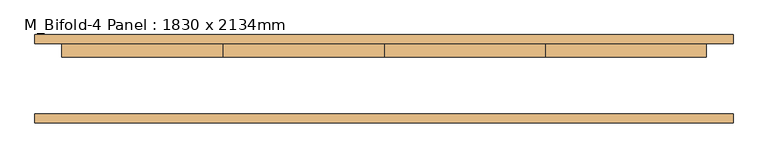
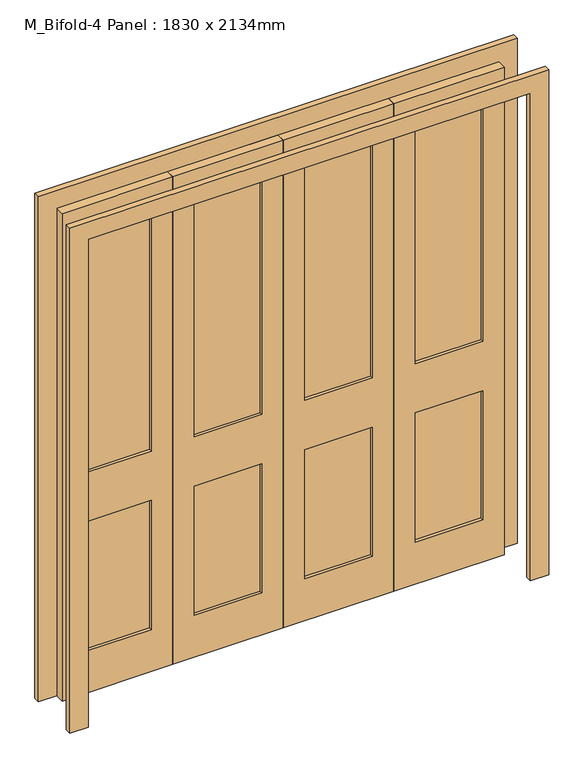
"""IFC4 building model written with IfcOpenShell, lengths in millimetres: door geometry, M_Bifold-4 Panel : 1830 x 2134mm."""

from ifc_helpers import new_model, si_unit, frame, origin, place, context, project, spatial, polyline, outline, extrude, source, transform, mapped, element, save


def m_bifold_4_panel_1830_x_2134mm_2044b99a(model_context):
    return source(origin(), model_context, "Body", "SweptSolid", [
        extrude(outline(polyline([(546.4, 87.3), (826.1, 87.3), (826.1, 74.6), (546.4, 74.6), (546.4, 87.3)])), frame((0.0, 0.0, 965.2), z_axis=(0.0, 0.0, 1.0), x_axis=(1.0, 0.0, 0.0)), (0.0, 0.0, 1.0), 1086.25),
        extrude(outline(polyline([(546.4, 87.3), (826.1, 87.3), (826.1, 74.6), (546.4, 74.6), (546.4, 87.3)])), frame((0.0, 0.0, 184.15), z_axis=(0.0, 0.0, 1.0), x_axis=(1.0, 0.0, 0.0)), (0.0, 0.0, 1.0), 565.15),
        extrude(outline(polyline([(88.9, 87.3), (368.6, 87.3), (368.6, 74.6), (88.9, 74.6), (88.9, 87.3)])), frame((0.0, 0.0, 965.2), z_axis=(0.0, 0.0, 1.0), x_axis=(1.0, 0.0, 0.0)), (0.0, 0.0, 1.0), 1086.25),
        extrude(outline(polyline([(88.9, 87.3), (368.6, 87.3), (368.6, 74.6), (88.9, 74.6), (88.9, 87.3)])), frame((0.0, 0.0, 184.15), z_axis=(0.0, 0.0, 1.0), x_axis=(1.0, 0.0, 0.0)), (0.0, 0.0, 1.0), 565.15),
        extrude(outline(polyline([(-368.6, 87.3), (-88.9, 87.3), (-88.9, 74.6), (-368.6, 74.6), (-368.6, 87.3)])), frame((0.0, 0.0, 184.15), z_axis=(0.0, 0.0, 1.0), x_axis=(1.0, 0.0, 0.0)), (0.0, 0.0, 1.0), 565.15),
        extrude(outline(polyline([(-368.6, 87.3), (-88.9, 87.3), (-88.9, 74.6), (-368.6, 74.6), (-368.6, 87.3)])), frame((0.0, 0.0, 965.2), z_axis=(0.0, 0.0, 1.0), x_axis=(1.0, 0.0, 0.0)), (0.0, 0.0, 1.0), 1086.25),
        extrude(outline(polyline([(-826.1, 87.3), (-546.4, 87.3), (-546.4, 74.6), (-826.1, 74.6), (-826.1, 87.3)])), frame((0.0, 0.0, 965.2), z_axis=(0.0, 0.0, 1.0), x_axis=(1.0, 0.0, 0.0)), (0.0, 0.0, 1.0), 1086.25),
        extrude(outline(polyline([(-826.1, 87.3), (-546.4, 87.3), (-546.4, 74.6), (-826.1, 74.6), (-826.1, 87.3)])), frame((0.0, 0.0, 184.15), z_axis=(0.0, 0.0, 1.0), x_axis=(1.0, 0.0, 0.0)), (0.0, 0.0, 1.0), 565.15),
        extrude(outline(polyline([(0.0, 991.0), (2210.0, 991.0), (2210.0, -991.0), (0.0, -991.0), (0.0, -915.0), (2134.0, -915.0), (2134.0, 915.0), (0.0, 915.0), (0.0, 991.0)])), frame((0.0, -125.4, 0.0), z_axis=(0.0, 1.0, 0.0), x_axis=(0.0, 0.0, 1.0)), (0.0, 0.0, 1.0), 25.4),
        extrude(outline(polyline([(0.0, 991.0), (2210.0, 991.0), (2210.0, -991.0), (0.0, -991.0), (0.0, -915.0), (2134.0, -915.0), (2134.0, 915.0), (0.0, 915.0), (0.0, 991.0)])), frame((0.0, 100.0, 0.0), z_axis=(0.0, 1.0, 0.0), x_axis=(0.0, 0.0, 1.0)), (0.0, 0.0, 1.0), 25.4),
        extrude(outline(polyline([(0.0, -915.0), (0.0, -457.5), (2134.0, -457.5), (2134.0, -915.0), (0.0, -915.0)]), holes=[polyline([(2051.45, -826.1), (2051.45, -546.4), (965.2, -546.4), (965.2, -826.1), (2051.45, -826.1)]), polyline([(749.3, -826.1), (749.3, -546.4), (184.15, -546.4), (184.15, -826.1), (749.3, -826.1)])]), frame((0.0, 61.9, 0.0), z_axis=(0.0, 1.0, 0.0), x_axis=(0.0, 0.0, 1.0)), (0.0, 0.0, 1.0), 38.1),
        extrude(outline(polyline([(0.0, -457.5), (0.0, 0.0), (2134.0, 0.0), (2134.0, -457.5), (0.0, -457.5)]), holes=[polyline([(2051.45, -368.6), (2051.45, -88.9), (965.2, -88.9), (965.2, -368.6), (2051.45, -368.6)]), polyline([(749.3, -368.6), (749.3, -88.9), (184.15, -88.9), (184.15, -368.6), (749.3, -368.6)])]), frame((0.0, 61.9, 0.0), z_axis=(0.0, 1.0, 0.0), x_axis=(0.0, 0.0, 1.0)), (0.0, 0.0, 1.0), 38.1),
        extrude(outline(polyline([(0.0, 0.0), (0.0, 457.5), (2134.0, 457.5), (2134.0, 0.0), (0.0, 0.0)]), holes=[polyline([(2051.45, 88.9), (2051.45, 368.6), (965.2, 368.6), (965.2, 88.9), (2051.45, 88.9)]), polyline([(749.3, 88.9), (749.3, 368.6), (184.15, 368.6), (184.15, 88.9), (749.3, 88.9)])]), frame((0.0, 61.9, 0.0), z_axis=(0.0, 1.0, 0.0), x_axis=(0.0, 0.0, 1.0)), (0.0, 0.0, 1.0), 38.1),
        extrude(outline(polyline([(0.0, 457.5), (0.0, 915.0), (2134.0, 915.0), (2134.0, 457.5), (0.0, 457.5)]), holes=[polyline([(2051.45, 546.4), (2051.45, 826.1), (965.2, 826.1), (965.2, 546.4), (2051.45, 546.4)]), polyline([(749.3, 546.4), (749.3, 826.1), (184.15, 826.1), (184.15, 546.4), (749.3, 546.4)])]), frame((0.0, 61.9, 0.0), z_axis=(0.0, 1.0, 0.0), x_axis=(0.0, 0.0, 1.0)), (0.0, 0.0, 1.0), 38.1),
    ])


if __name__ == "__main__":
    model = new_model("IFC4")
    model_context = context("Model", 3, world=origin())
    ifc_project = project(units=[si_unit("LENGTHUNIT", "METRE", prefix="MILLI")], contexts=[model_context])
    site = spatial("IfcSite", under=ifc_project)
    building = spatial("IfcBuilding", under=site)
    placement = place(None, origin())
    m_bifold_4_panel_1830_x_2134mm_shape = m_bifold_4_panel_1830_x_2134mm_2044b99a(model_context)
    element("IfcDoor", 1, ObjectType="M_Bifold-4 Panel : 1830 x 2134mm", at=placement, inside=building, context=model_context, shape_type="MappedRepresentation", body=[
        mapped(m_bifold_4_panel_1830_x_2134mm_shape, transform((0.0, 0.0, 0.0), x_axis=(1.0, 0.0, 0.0), y_axis=(0.0, 1.0, 0.0), z_axis=(0.0, 0.0, 1.0))),
    ])
    save(model, "model.ifc")
